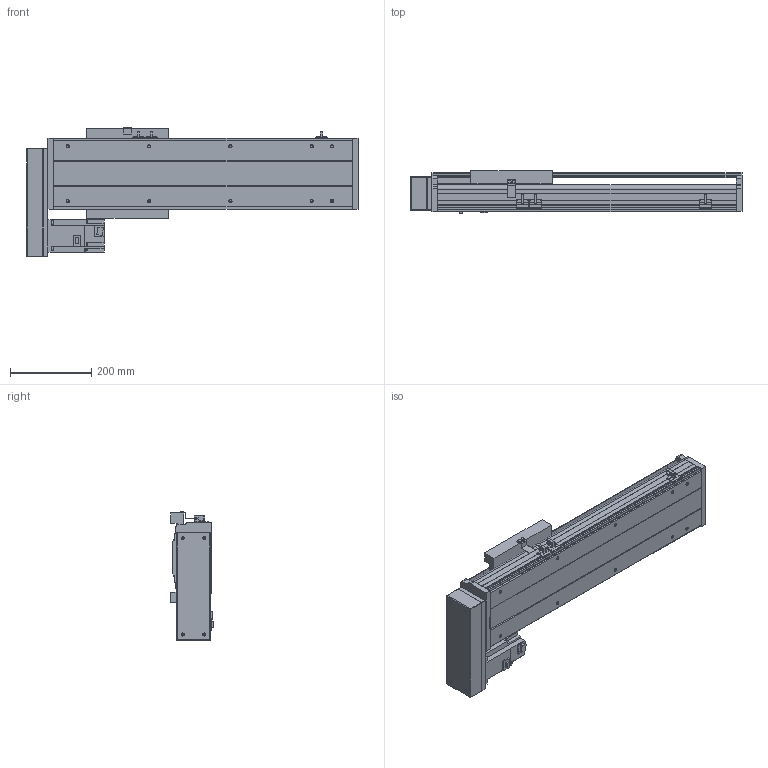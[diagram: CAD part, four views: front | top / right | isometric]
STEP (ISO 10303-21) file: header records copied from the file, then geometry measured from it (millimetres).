
FILE_DESCRIPTION(/* description */ ('STEP AP214'),/* implementation_level */ '2;1');
FILE_NAME(/* name */ 'PSS200-L10-S400-BR-T75-C1-N(0)',/* time_stamp */ '2022-06-09T03:16:16+02:00',/* author */ ('License CC BY-ND 4.0'),/* organization */ ('CADENAS'),/* preprocessor_version */ 'ST-DEVELOPER v18.102',/* originating_system */ 'PARTsolutions',/* authorisation */ ' ');
FILE_SCHEMA (('AUTOMOTIVE_DESIGN {1 0 10303 214 3 1 1}'));
Length unit declared in the file: millimetre
Products named in the file (8): PSS200-L10-S400-BR-T75-C1-N(0); PSS200-S400-BR-N_S; T75-p1; PSS200BR-N_h; PSS200-N_sensor; PSS200-BR-C1-N_sl; PSS200-N_Q; PSS200-S400-BR-C1-N_body
Assembly tree (9 placements, depth 2):
  PSS200-L10-S400-BR-T75-C1-N(0)
    PSS200-S400-BR-N_S
    T75-p1
    PSS200BR-N_h
    PSS200-N_sensor  x3
    PSS200-BR-C1-N_sl
    PSS200-N_Q
    PSS200-S400-BR-C1-N_body
Bounding box: 816.85 x 105.3 x 317.86 mm (x, y, z)
Volume: 6747141.1 mm3; surface area: 1400535.6 mm2
Topology: 9 solids, 9 shells, 600 faces, 1597 edges, 1054 vertices
Faces by surface type: plane 466, cylinder 112, cone 18, sphere 4
Full cylindrical faces by diameter (mm): 4 x2, 4.5 x4, 6 x7, 6.647 x14, 7.4 x4, 8 x8, 10 x6, 25 x1, 40 x1, 67 x1
Entity records: 16617 total; most frequent: CARTESIAN_POINT 2859, DIRECTION 2752, ORIENTED_EDGE 2726, EDGE_CURVE 1363, LINE 1090, VECTOR 1090, VERTEX_POINT 938, AXIS2_PLACEMENT_3D 831
